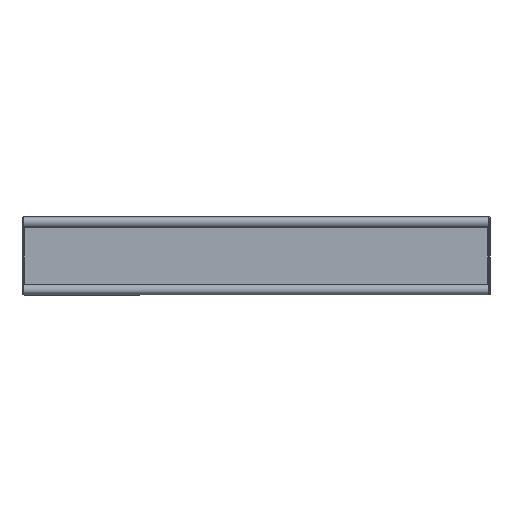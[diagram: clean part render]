
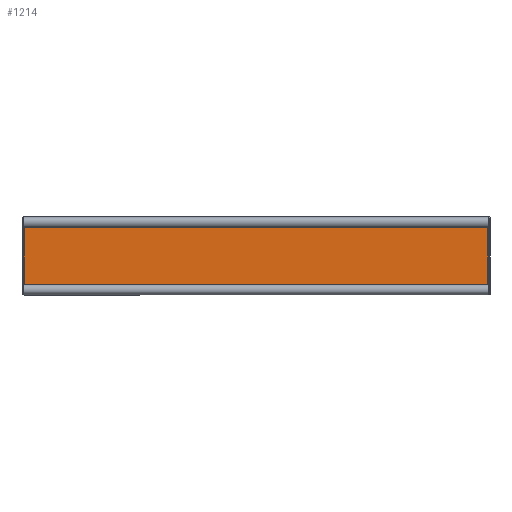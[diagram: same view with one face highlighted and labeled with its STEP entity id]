
A CAD part, front view. The second image highlights one B-rep face of the part: STEP entity #1214.
In plain terms, the highlighted planar face has unit normal (0, -1, 0).
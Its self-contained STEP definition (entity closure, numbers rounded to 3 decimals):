
#30 = CARTESIAN_POINT ( 'NONE',  ( 445., -2., 71. ) ) ;
#283 = VERTEX_POINT ( 'NONE', #2428 ) ;
#317 = DIRECTION ( 'NONE',  ( 0., 0., 1. ) ) ;
#723 = LINE ( 'NONE', #5956, #6536 ) ;
#1074 = CIRCLE ( 'NONE', #1233, 5. ) ;
#1120 = VECTOR ( 'NONE', #2971, 1000. ) ;
#1214 = ADVANCED_FACE ( 'NONE', ( #5888 ), #9472, .F. ) ;
#1233 = AXIS2_PLACEMENT_3D ( 'NONE', #7892, #3506, #5085 ) ;
#2067 = CARTESIAN_POINT ( 'NONE',  ( 446., -2., -70. ) ) ;
#2129 = EDGE_CURVE ( 'NONE', #3098, #4615, #3250, .T. ) ;
#2181 = EDGE_CURVE ( 'NONE', #4250, #3205, #3548, .T. ) ;
#2253 = DIRECTION ( 'NONE',  ( 1., 0., 0. ) ) ;
#2279 = EDGE_CURVE ( 'NONE', #6076, #283, #4814, .T. ) ;
#2428 = CARTESIAN_POINT ( 'NONE',  ( -445., -2., 71. ) ) ;
#2456 = EDGE_CURVE ( 'NONE', #3023, #3205, #723, .T. ) ;
#2470 = VERTEX_POINT ( 'NONE', #2974 ) ;
#2816 = DIRECTION ( 'NONE',  ( 1., 0., 0. ) ) ;
#2971 = DIRECTION ( 'NONE',  ( 0., 0., 1. ) ) ;
#2974 = CARTESIAN_POINT ( 'NONE',  ( -446., -2., -70. ) ) ;
#3023 = VERTEX_POINT ( 'NONE', #2067 ) ;
#3098 = VERTEX_POINT ( 'NONE', #8413 ) ;
#3205 = VERTEX_POINT ( 'NONE', #9740 ) ;
#3250 = LINE ( 'NONE', #9021, #4342 ) ;
#3506 = DIRECTION ( 'NONE',  ( 0., -1., 0. ) ) ;
#3548 = CIRCLE ( 'NONE', #8744, 5. ) ;
#3615 = EDGE_LOOP ( 'NONE', ( #4880, #6975, #4809, #4706, #6827, #6921, #3908, #4532 ) ) ;
#3649 = LINE ( 'NONE', #9725, #1120 ) ;
#3700 = AXIS2_PLACEMENT_3D ( 'NONE', #6074, #9108, #5409 ) ;
#3718 = DIRECTION ( 'NONE',  ( 0., 0., 1. ) ) ;
#3844 = CARTESIAN_POINT ( 'NONE',  ( -446., -2., 70. ) ) ;
#3908 = ORIENTED_EDGE ( 'NONE', *, *, #5295, .F. ) ;
#4198 = DIRECTION ( 'NONE',  ( 0., -1., 0. ) ) ;
#4250 = VERTEX_POINT ( 'NONE', #30 ) ;
#4342 = VECTOR ( 'NONE', #2253, 1000. ) ;
#4532 = ORIENTED_EDGE ( 'NONE', *, *, #2129, .T. ) ;
#4615 = VERTEX_POINT ( 'NONE', #9073 ) ;
#4706 = ORIENTED_EDGE ( 'NONE', *, *, #6649, .F. ) ;
#4809 = ORIENTED_EDGE ( 'NONE', *, *, #2181, .F. ) ;
#4814 = CIRCLE ( 'NONE', #3700, 5. ) ;
#4880 = ORIENTED_EDGE ( 'NONE', *, *, #5250, .F. ) ;
#5085 = DIRECTION ( 'NONE',  ( 0., 0., 1. ) ) ;
#5250 = EDGE_CURVE ( 'NONE', #3023, #4615, #6702, .T. ) ;
#5295 = EDGE_CURVE ( 'NONE', #3098, #2470, #1074, .T. ) ;
#5409 = DIRECTION ( 'NONE',  ( 0., 0., 1. ) ) ;
#5429 = CARTESIAN_POINT ( 'NONE',  ( 449., -2., -74. ) ) ;
#5499 = VECTOR ( 'NONE', #2816, 1000. ) ;
#5518 = DIRECTION ( 'NONE',  ( 0., -1., 0. ) ) ;
#5611 = CARTESIAN_POINT ( 'NONE',  ( 449., -2., 74. ) ) ;
#5888 = FACE_OUTER_BOUND ( 'NONE', #3615, .T. ) ;
#5956 = CARTESIAN_POINT ( 'NONE',  ( 446., -2., -74. ) ) ;
#6074 = CARTESIAN_POINT ( 'NONE',  ( -449., -2., 74. ) ) ;
#6076 = VERTEX_POINT ( 'NONE', #3844 ) ;
#6332 = EDGE_CURVE ( 'NONE', #2470, #6076, #3649, .T. ) ;
#6387 = AXIS2_PLACEMENT_3D ( 'NONE', #5429, #4198, #9527 ) ;
#6536 = VECTOR ( 'NONE', #7365, 1000. ) ;
#6649 = EDGE_CURVE ( 'NONE', #283, #4250, #6740, .T. ) ;
#6702 = CIRCLE ( 'NONE', #6387, 5. ) ;
#6740 = LINE ( 'NONE', #8274, #5499 ) ;
#6827 = ORIENTED_EDGE ( 'NONE', *, *, #2279, .F. ) ;
#6921 = ORIENTED_EDGE ( 'NONE', *, *, #6332, .F. ) ;
#6975 = ORIENTED_EDGE ( 'NONE', *, *, #2456, .T. ) ;
#7365 = DIRECTION ( 'NONE',  ( 0., 0., 1. ) ) ;
#7469 = DIRECTION ( 'NONE',  ( 0., 1., 0. ) ) ;
#7892 = CARTESIAN_POINT ( 'NONE',  ( -449., -2., -74. ) ) ;
#8274 = CARTESIAN_POINT ( 'NONE',  ( -449., -2., 71. ) ) ;
#8413 = CARTESIAN_POINT ( 'NONE',  ( -445., -2., -71. ) ) ;
#8744 = AXIS2_PLACEMENT_3D ( 'NONE', #5611, #5518, #317 ) ;
#8889 = AXIS2_PLACEMENT_3D ( 'NONE', #9425, #7469, #3718 ) ;
#9021 = CARTESIAN_POINT ( 'NONE',  ( -449., -2., -71. ) ) ;
#9073 = CARTESIAN_POINT ( 'NONE',  ( 445., -2., -71. ) ) ;
#9108 = DIRECTION ( 'NONE',  ( 0., -1., 0. ) ) ;
#9425 = CARTESIAN_POINT ( 'NONE',  ( -449., -2., -74. ) ) ;
#9472 = PLANE ( 'NONE',  #8889 ) ;
#9527 = DIRECTION ( 'NONE',  ( 0., 0., 1. ) ) ;
#9725 = CARTESIAN_POINT ( 'NONE',  ( -446., -2., -74. ) ) ;
#9740 = CARTESIAN_POINT ( 'NONE',  ( 446., -2., 70. ) ) ;
